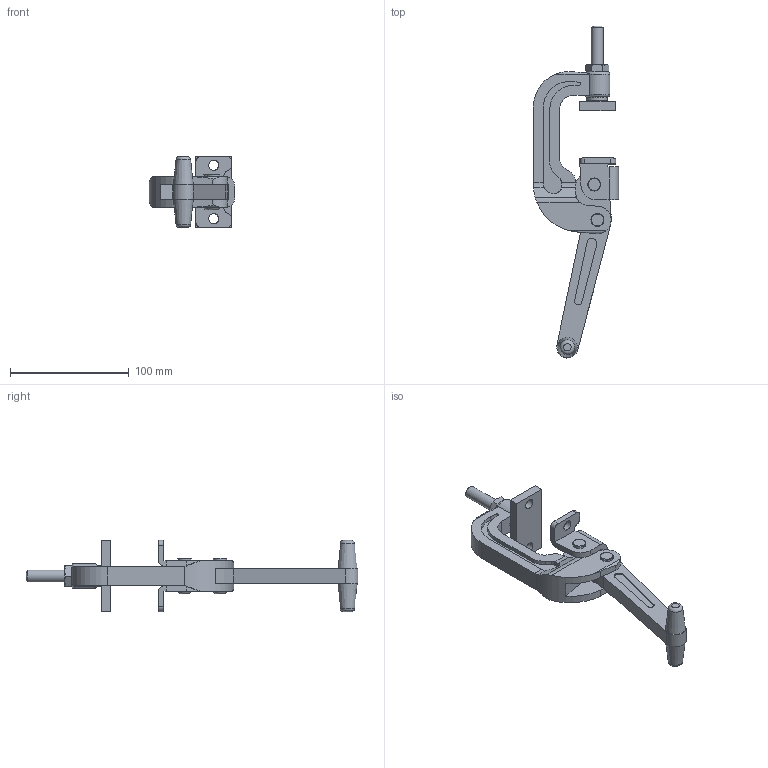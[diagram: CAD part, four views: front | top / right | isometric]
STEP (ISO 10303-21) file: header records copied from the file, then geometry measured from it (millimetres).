
FILE_DESCRIPTION( ( 'STEP AP203' ), '1' );
FILE_NAME( 'C:/Temp/Ganter_Step_05_03_2020/data/2_4/gn855/C-Clamp GN 855-40-32-C2 (tensioned).stp', '2020-03-13T05:49:50', ( 'License CC BY-ND 4.0' ), ( 'CADENAS' ), ' ', 'PARTsolutions', ' ' );
FILE_SCHEMA( ( 'CONFIG_CONTROL_DESIGN' ) );
Length unit declared in the file: millimetre
Products named in the file (5): C-Clamp GN 855-40-32-C2 (tensioned); _Buegelspanner GN 855-40-32-C2 (POS:0)_1; _Buegelspanner GN 855-40-32-C2 (POS:0)_3; _Buegelspanner GN 855-40-32-C2 (POS:0)_2; _Buegelspanner GN 855-40-32-C2 (POS:0)_4
Assembly tree (4 placements, depth 2):
  C-Clamp GN 855-40-32-C2 (tensioned)
    _Buegelspanner GN 855-40-32-C2 (POS:0)_1
    _Buegelspanner GN 855-40-32-C2 (POS:0)_3
    _Buegelspanner GN 855-40-32-C2 (POS:0)_2
    _Buegelspanner GN 855-40-32-C2 (POS:0)_4
Bounding box: 71.74 x 279.65 x 60 mm (x, y, z)
Volume: 157299.2 mm3; surface area: 50250.2 mm2
Topology: 4 solids, 4 shells, 208 faces, 570 edges, 380 vertices
Faces by surface type: plane 108, cylinder 75, cone 16, torus 8, sphere 1
Full cylindrical faces by diameter (mm): 8.5 x4, 10 x2, 10.6 x3, 11 x5, 17 x1
Entity records: 6790 total; most frequent: CARTESIAN_POINT 1467, DIRECTION 1070, ORIENTED_EDGE 1048, EDGE_CURVE 524, AXIS2_PLACEMENT_3D 396, VERTEX_POINT 367, LINE 278, VECTOR 278
